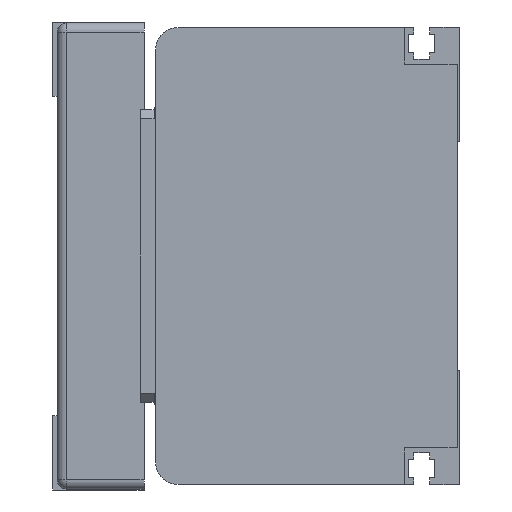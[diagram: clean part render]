
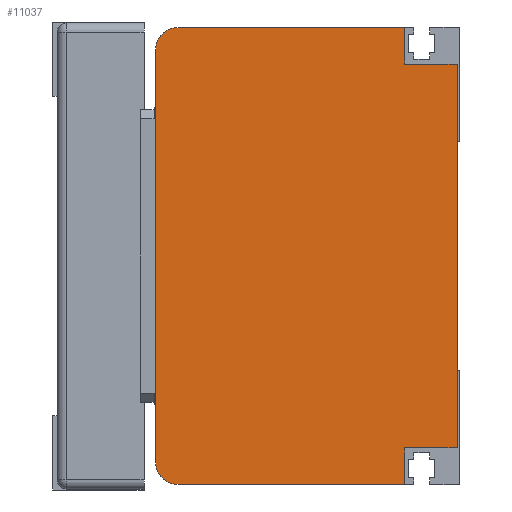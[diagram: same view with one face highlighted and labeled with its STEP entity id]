
A CAD part, left-side view. The second image highlights one B-rep face of the part: STEP entity #11037.
In plain terms, the highlighted planar face has unit normal (-1, 0, 0) as drawn and (0, 0, -1) by its records, which use the part's own axes.
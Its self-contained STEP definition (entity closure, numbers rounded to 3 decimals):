
#676=LINE('',#15368,#1733);
#677=LINE('',#15370,#1734);
#678=LINE('',#15372,#1735);
#679=LINE('',#15376,#1736);
#680=LINE('',#15380,#1737);
#681=LINE('',#15382,#1738);
#682=LINE('',#15384,#1739);
#683=LINE('',#15385,#1740);
#1733=VECTOR('',#12737,8.);
#1734=VECTOR('',#12738,8.);
#1735=VECTOR('',#12739,49.5);
#1736=VECTOR('',#12742,90.);
#1737=VECTOR('',#12745,49.5);
#1738=VECTOR('',#12746,8.);
#1739=VECTOR('',#12747,8.);
#1740=VECTOR('',#12748,98.);
#2747=PLANE('',#11786);
#3274=FACE_OUTER_BOUND('',#3943,.T.);
#3943=EDGE_LOOP('',(#7832,#7833,#7834,#7835,#7836,#7837,#7838,#7839,#7840,
#7841));
#4705=CIRCLE('',#11787,5.);
#4706=CIRCLE('',#11788,5.);
#4970=VERTEX_POINT('',#15366);
#4971=VERTEX_POINT('',#15367);
#4972=VERTEX_POINT('',#15369);
#4973=VERTEX_POINT('',#15371);
#4974=VERTEX_POINT('',#15373);
#4975=VERTEX_POINT('',#15375);
#4976=VERTEX_POINT('',#15377);
#4977=VERTEX_POINT('',#15379);
#4978=VERTEX_POINT('',#15381);
#4979=VERTEX_POINT('',#15383);
#6114=EDGE_CURVE('',#4970,#4971,#676,.T.);
#6115=EDGE_CURVE('',#4971,#4972,#677,.T.);
#6116=EDGE_CURVE('',#4972,#4973,#678,.T.);
#6117=EDGE_CURVE('',#4973,#4974,#4705,.T.);
#6118=EDGE_CURVE('',#4974,#4975,#679,.T.);
#6119=EDGE_CURVE('',#4975,#4976,#4706,.T.);
#6120=EDGE_CURVE('',#4976,#4977,#680,.T.);
#6121=EDGE_CURVE('',#4977,#4978,#681,.T.);
#6122=EDGE_CURVE('',#4978,#4979,#682,.T.);
#6123=EDGE_CURVE('',#4979,#4970,#683,.T.);
#7832=ORIENTED_EDGE('',*,*,#6114,.T.);
#7833=ORIENTED_EDGE('',*,*,#6115,.T.);
#7834=ORIENTED_EDGE('',*,*,#6116,.T.);
#7835=ORIENTED_EDGE('',*,*,#6117,.T.);
#7836=ORIENTED_EDGE('',*,*,#6118,.T.);
#7837=ORIENTED_EDGE('',*,*,#6119,.T.);
#7838=ORIENTED_EDGE('',*,*,#6120,.T.);
#7839=ORIENTED_EDGE('',*,*,#6121,.T.);
#7840=ORIENTED_EDGE('',*,*,#6122,.T.);
#7841=ORIENTED_EDGE('',*,*,#6123,.T.);
#11037=ADVANCED_FACE('',(#3274),#2747,.T.);
#11786=AXIS2_PLACEMENT_3D('',#15365,#12735,#12736);
#11787=AXIS2_PLACEMENT_3D('',#15374,#12740,#12741);
#11788=AXIS2_PLACEMENT_3D('',#15378,#12743,#12744);
#12735=DIRECTION('center_axis',(0.,0.,-1.));
#12736=DIRECTION('ref_axis',(-1.,0.,0.));
#12737=DIRECTION('',(0.,1.,0.));
#12738=DIRECTION('',(-1.,0.,0.));
#12739=DIRECTION('',(0.,1.,0.));
#12740=DIRECTION('center_axis',(0.,0.,-1.));
#12741=DIRECTION('ref_axis',(-1.,0.,0.));
#12742=DIRECTION('',(1.,0.,0.));
#12743=DIRECTION('center_axis',(0.,0.,-1.));
#12744=DIRECTION('ref_axis',(0.,1.,0.));
#12745=DIRECTION('',(0.,-1.,0.));
#12746=DIRECTION('',(-1.,0.,0.));
#12747=DIRECTION('',(0.,-1.,0.));
#12748=DIRECTION('',(-1.,0.,0.));
#15365=CARTESIAN_POINT('Origin',(0.,0.,-600.));
#15366=CARTESIAN_POINT('',(-9.,-8.,-600.));
#15367=CARTESIAN_POINT('',(-9.,3.5,-600.));
#15368=CARTESIAN_POINT('',(-9.,-4.5,-600.));
#15369=CARTESIAN_POINT('',(-17.,3.5,-600.));
#15370=CARTESIAN_POINT('',(-9.,3.5,-600.));
#15371=CARTESIAN_POINT('',(-17.,53.,-600.));
#15372=CARTESIAN_POINT('',(-17.,3.5,-600.));
#15373=CARTESIAN_POINT('',(-12.,58.,-600.));
#15374=CARTESIAN_POINT('Origin',(-12.,53.,-600.));
#15375=CARTESIAN_POINT('',(78.,58.,-600.));
#15376=CARTESIAN_POINT('',(-12.,58.,-600.));
#15377=CARTESIAN_POINT('',(83.,53.,-600.));
#15378=CARTESIAN_POINT('Origin',(78.,53.,-600.));
#15379=CARTESIAN_POINT('',(83.,3.5,-600.));
#15380=CARTESIAN_POINT('',(83.,53.,-600.));
#15381=CARTESIAN_POINT('',(75.,3.5,-600.));
#15382=CARTESIAN_POINT('',(83.,3.5,-600.));
#15383=CARTESIAN_POINT('',(75.,-8.,-600.));
#15384=CARTESIAN_POINT('',(75.,3.5,-600.));
#15385=CARTESIAN_POINT('',(82.,-8.,-600.));
